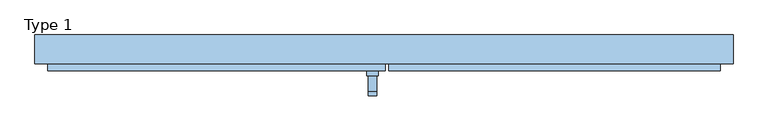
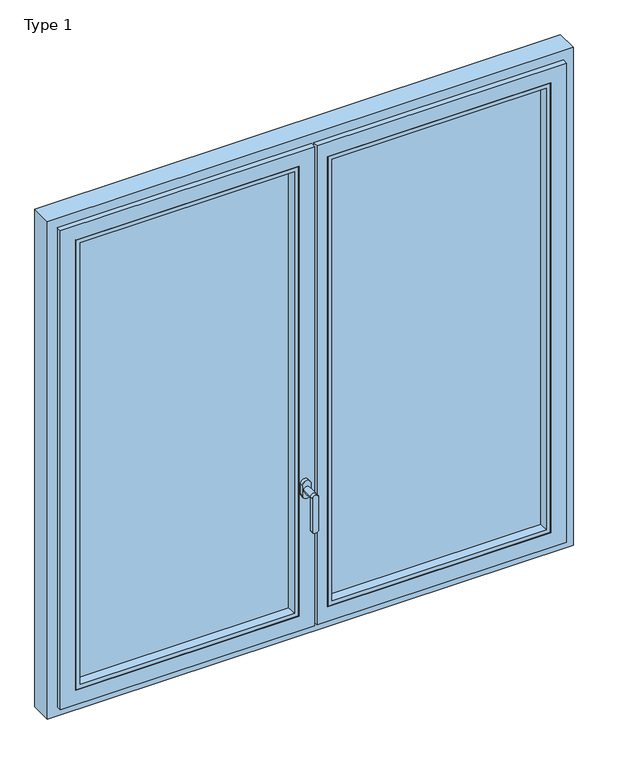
"""IFC4 building model written with IfcOpenShell, lengths in millimetres: window geometry, Schueco_LivIng-82-AS_Window_inw_Family-20 : Type 1."""

from ifc_helpers import new_model, si_unit, point, frame, frame_2d, origin, place, context, project, spatial, polyline, circle_curve, ellipse_curve, trimmed, segment, composite_curve, outline, extrude, faceted_brep, source, transform, mapped, element, save
from ifc_brep_helpers import plane_surface, cylinder_surface, extruded_surface, advanced_brep


def type_1_1d15f25d(model_context):
    return source(origin(), model_context, "Body", "SolidModel", [
        advanced_brep(
        [(-44.9886308, -32.9997898, 1410.0), (-44.9886308, -32.9997898, 1278.6867153), (-21.0113692, -32.9997898, 1278.6867153), (-21.0113692, -32.9997898, 1410.0), (-21.0113692, -20.4997028, 1410.0), (-21.0113692, -20.4997028, 1278.6867153), (-44.9886308, -20.4997028, 1278.6867153), (-44.9886308, -20.4997028, 1410.0), (-44.9886308, 24.0001797, 1410.0), (-21.0113692, 24.0001797, 1410.0)],
        [
            (0, 1),
            (1, 2, ellipse_curve(frame((-33.0, -32.9997898, 1278.6867153), z_axis=(0.0, -1.0, 0.0), x_axis=(-1.0, 0.0, 0.0)), 11.9886308, 7.9050795)),
            (2, 3),
            (3, 0, circle_curve(frame((-33.0, -32.9997898, 1410.0), z_axis=(0.0, -1.0, 0.0), x_axis=(1.0, 0.0, 0.0)), 11.9886308)),
            (4, 5),
            (5, 6, ellipse_curve(frame((-33.0, -20.4997028, 1278.6867153), z_axis=(0.0, 1.0, 0.0), x_axis=(-1.0, 0.0, 0.0)), 11.9886308, 7.9050795)),
            (6, 7),
            (7, 4, circle_curve(frame((-33.0, -20.4997028, 1410.0), z_axis=(0.0, -1.0, 0.0), x_axis=(1.0, 0.0, 0.0)), 11.9886308)),
            (0, 7),
            (6, 1),
            (5, 2),
            (4, 3),
            (4, 7, circle_curve(frame((-33.0, -20.4997028, 1410.0), z_axis=(0.0, -1.0, 0.0), x_axis=(1.0, 0.0, 0.0)), 11.9886308)),
            (8, 9, circle_curve(frame((-33.0, 24.0001797, 1410.0), z_axis=(0.0, 1.0, 0.0), x_axis=(1.0, 0.0, 0.0)), 11.9886308)),
            (9, 8, circle_curve(frame((-33.0, 24.0001797, 1410.0), z_axis=(0.0, 1.0, 0.0), x_axis=(1.0, 0.0, 0.0)), 11.9886308)),
            (9, 4),
            (7, 8),
        ],
        [
            plane_surface(frame((-44.9886308, -32.9997898, 1288.3382074), z_axis=(0.0, -1.0, 0.0), x_axis=(0.0, 0.0, -1.0))),
            plane_surface(frame((-44.9886308, -20.4997028, 1288.3382074), z_axis=(0.0, 1.0, 0.0), x_axis=(0.0, 0.0, 1.0))),
            plane_surface(frame((-44.9886308, -32.9997898, 1410.0), z_axis=(-1.0, 0.0, 0.0), x_axis=(0.0, 1.0, 0.0))),
            extruded_surface(trimmed(ellipse_curve(frame((-33.0, -7.9996158, 1278.6867153), z_axis=(0.0, -1.0, 0.0), x_axis=(-1.0, 0.0, 0.0)), 11.9886308, 7.9050795), [point((-44.9886308, -7.9996158, 1278.6867153))], [point((-21.0113692, -7.9996158, 1278.6867153))], True, "CARTESIAN"), (0.0, -12.500087, 0.0), 12.500087),
            plane_surface(frame((-21.0113692, -32.9997898, 1278.6867153), z_axis=(1.0, 0.0, 0.0), x_axis=(0.0, 1.0, 0.0))),
            cylinder_surface(frame((-33.0, -20.4997028, 1410.0), z_axis=(0.0, -1.0, 0.0), x_axis=(1.0, 0.0, 0.0)), 11.9886308),
            plane_surface(frame((-21.0113692, 24.0001797, 1410.0), z_axis=(0.0, 1.0, 0.0), x_axis=(0.0, 0.0, -1.0))),
            cylinder_surface(frame((-33.0, 24.0001797, 1410.0), z_axis=(0.0, -1.0, 0.0), x_axis=(1.0, 0.0, 0.0)), 11.9886308),
        ],
        [
            (0, [[1, 2, 3, 4]]),
            (1, [[5, 6, 7, 8]]),
            (2, [[-1, 9, -7, 10]]),
            (3, [[-2, -10, -6, 11]]),
            (4, [[-3, -11, -5, 12]]),
            (5, [[-4, -12, 13, -9]]),
            (6, [[14, 15]]),
            (7, [[-15, 16, -8, 17]]),
            (7, [[-14, -17, -13, -16]]),
        ],
    ),
        extrude(outline(composite_curve([segment(polyline([(1428.75, -49.25), (1391.25, -49.25)]), True, "CONTINUOUS"), segment(trimmed(circle_curve(frame_2d((1391.25, -33.0)), 16.25), [point((1391.25, -49.25))], [point((1391.25, -16.75))], False, "CARTESIAN"), True, "CONTINUOUS"), segment(polyline([(1391.25, -16.75), (1428.75, -16.75)]), True, "CONTINUOUS"), segment(trimmed(circle_curve(frame_2d((1428.75, -33.0)), 16.25), [point((1428.75, -16.75))], [point((1428.75, -49.25))], False, "CARTESIAN"), True, "CONTINUOUS")], self_intersect=False)), frame((0.0, 24.0001797, 0.0), z_axis=(0.0, 1.0, 0.0), x_axis=(0.0, 0.0, 1.0)), (0.0, 0.0, 1.0), 14.0),
        faceted_brep([(15.9998644, 58.0, 2733.0001356), (15.9998644, 120.0001797, 2733.0001356), (15.9998644, 120.0001797, 866.9998644), (15.9998644, 58.0, 866.9998644), (933.0001356, 120.0001797, 2733.0001356), (933.0001356, 120.0001797, 866.9998644), (75.1322392, 120.0001797, 2673.8677608), (75.1322392, 120.0001797, 926.1322392), (873.8677608, 120.0001797, 926.1322392), (873.8677608, 120.0001797, 2673.8677608), (933.0001356, 58.0, 866.9998644), (953.0001356, 58.0, 2753.0001356), (953.0001356, 58.0, 846.9998644), (13.0208109, 58.0, 846.9998644), (13.0208109, 58.0, 2753.0001356), (933.0001356, 58.0, 2733.0001356), (53.9998644, 100.9991032, 2695.0001356), (53.9998644, 38.0001797, 2695.0001356), (53.9998644, 38.0001797, 904.9998644), (53.9998644, 100.9991032, 904.9998644), (953.0001356, 38.0001797, 846.9998644), (953.0001356, 38.0001797, 2753.0001356), (13.0208109, 38.0001797, 2753.0001356), (13.0208109, 38.0001797, 846.9998644), (895.0001356, 38.0001797, 2695.0001356), (895.0001356, 38.0001797, 904.9998644), (895.0001356, 100.9991032, 904.9998644), (895.0001356, 100.9991032, 2695.0001356), (868.7764377, 100.9991032, 2668.7764377), (868.7764377, 100.9991032, 931.2235623), (80.2235623, 100.9991032, 931.2235623), (80.2235623, 100.9991032, 2668.7764377)], [[[0, 1, 2, 3]], [[1, 4, 5, 2], [6, 7, 8, 9]], [[3, 2, 5, 10]], [[11, 12, 13, 14], [15, 0, 3, 10]], [[16, 17, 18, 19]], [[20, 21, 22, 23], [17, 24, 25, 18]], [[19, 18, 25, 26]], [[27, 16, 19, 26], [28, 29, 30, 31]], [[4, 15, 10, 5]], [[24, 27, 26, 25]], [[12, 20, 23, 13]], [[11, 21, 20, 12]], [[7, 6, 31, 30]], [[8, 7, 30, 29]], [[9, 8, 29, 28]], [[15, 4, 1, 0]], [[27, 24, 17, 16]], [[21, 11, 14, 22]], [[6, 9, 28, 31]], [[22, 14, 13, 23]]]),
        faceted_brep([(53.9998644, 39.499499, 2695.0001356), (53.9998644, 64.9991032, 2695.0001356), (53.9998644, 64.9991032, 904.9998644), (53.9998644, 39.499499, 904.9998644), (895.0001356, 64.9991032, 2695.0001356), (895.0001356, 64.9991032, 904.9998644), (78.0642509, 64.9991032, 2670.9357491), (78.0642509, 64.9991032, 929.0642509), (870.9357491, 64.9991032, 929.0642509), (870.9357491, 64.9991032, 2670.9357491), (895.0001356, 39.499499, 904.9998644), (55.4991837, 38.0001797, 2693.5008163), (55.4991837, 38.0001797, 906.4991837), (895.0001356, 39.499499, 2695.0001356), (893.5008163, 38.0001797, 906.4991837), (70.8299112, 38.0001797, 2678.1700888), (70.8299112, 38.0001797, 921.8299112), (878.1700888, 38.0001797, 921.8299112), (878.1700888, 38.0001797, 2678.1700888), (893.5008163, 38.0001797, 2693.5008163)], [[[0, 1, 2, 3]], [[4, 5, 2, 1], [6, 7, 8, 9]], [[3, 2, 5, 10]], [[11, 0, 3, 12]], [[10, 5, 4, 13]], [[12, 3, 10, 14]], [[6, 15, 16, 7]], [[7, 16, 17, 8]], [[8, 17, 18, 9]], [[11, 12, 14, 19], [18, 17, 16, 15]], [[14, 10, 13, 19]], [[13, 4, 1, 0]], [[9, 18, 15, 6]], [[19, 13, 0, 11]]]),
        extrude(outline(polyline([(53.9998644, 100.9991032), (895.0001356, 100.9991032), (895.0001356, 64.9991032), (53.9998644, 64.9991032), (53.9998644, 100.9991032)])), frame((0.0, 0.0, 904.9998644), z_axis=(0.0, 0.0, 1.0), x_axis=(1.0, 0.0, 0.0)), (0.0, 0.0, 1.0), 1790.0002713),
        faceted_brep([(-53.9998644, 64.9991032, 2695.0001356), (-53.9998644, 39.499499, 2695.0001356), (-53.9998644, 39.499499, 904.9998644), (-53.9998644, 64.9991032, 904.9998644), (-55.4991837, 38.0001797, 2693.5008163), (-55.4991837, 38.0001797, 906.4991837), (-895.0001356, 39.499499, 904.9998644), (-895.0001356, 64.9991032, 904.9998644), (-895.0001356, 64.9991032, 2695.0001356), (-870.9357491, 64.9991032, 2670.9357491), (-870.9357491, 64.9991032, 929.0642509), (-78.0642509, 64.9991032, 929.0642509), (-78.0642509, 64.9991032, 2670.9357491), (-893.5008163, 38.0001797, 906.4991837), (-895.0001356, 39.499499, 2695.0001356), (-878.1700888, 38.0001797, 921.8299112), (-878.1700888, 38.0001797, 2678.1700888), (-70.8299112, 38.0001797, 921.8299112), (-70.8299112, 38.0001797, 2678.1700888), (-893.5008163, 38.0001797, 2693.5008163)], [[[0, 1, 2, 3]], [[1, 4, 5, 2]], [[3, 2, 6, 7]], [[0, 3, 7, 8], [9, 10, 11, 12]], [[2, 5, 13, 6]], [[7, 6, 14, 8]], [[15, 10, 9, 16]], [[17, 11, 10, 15]], [[18, 12, 11, 17]], [[19, 13, 5, 4], [18, 17, 15, 16]], [[6, 13, 19, 14]], [[8, 14, 1, 0]], [[16, 9, 12, 18]], [[14, 19, 4, 1]]]),
        faceted_brep([(-15.9998644, 120.0001797, 2733.0001356), (-15.9998644, 58.0, 2733.0001356), (-15.9998644, 58.0, 866.9998644), (-15.9998644, 120.0001797, 866.9998644), (4.0001356, 58.0, 2753.0001356), (4.0001356, 58.0, 846.9998644), (-953.0001356, 58.0, 846.9998644), (-953.0001356, 58.0, 2753.0001356), (-933.0001356, 58.0, 2733.0001356), (-933.0001356, 58.0, 866.9998644), (-933.0001356, 120.0001797, 866.9998644), (-933.0001356, 120.0001797, 2733.0001356), (-873.8677608, 120.0001797, 2673.8677608), (-873.8677608, 120.0001797, 926.1322392), (-75.1322392, 120.0001797, 926.1322392), (-75.1322392, 120.0001797, 2673.8677608), (-53.9998644, 38.0001797, 2695.0001356), (-53.9998644, 100.9991032, 2695.0001356), (-53.9998644, 100.9991032, 904.9998644), (-53.9998644, 38.0001797, 904.9998644), (-895.0001356, 100.9991032, 2695.0001356), (-895.0001356, 100.9991032, 904.9998644), (-80.2235623, 100.9991032, 2668.7764377), (-80.2235623, 100.9991032, 931.2235623), (-868.7764377, 100.9991032, 931.2235623), (-868.7764377, 100.9991032, 2668.7764377), (-895.0001356, 38.0001797, 904.9998644), (-953.0001356, 38.0001797, 2753.0001356), (-953.0001356, 38.0001797, 846.9998644), (4.0001356, 38.0001797, 846.9998644), (4.0001356, 38.0001797, 2753.0001356), (-895.0001356, 38.0001797, 2695.0001356)], [[[0, 1, 2, 3]], [[4, 5, 6, 7], [8, 9, 2, 1]], [[3, 2, 9, 10]], [[0, 3, 10, 11], [12, 13, 14, 15]], [[16, 17, 18, 19]], [[20, 21, 18, 17], [22, 23, 24, 25]], [[19, 18, 21, 26]], [[27, 28, 29, 30], [16, 19, 26, 31]], [[4, 30, 29, 5]], [[5, 29, 28, 6]], [[10, 9, 8, 11]], [[26, 21, 20, 31]], [[6, 28, 27, 7]], [[24, 13, 12, 25]], [[23, 14, 13, 24]], [[22, 15, 14, 23]], [[11, 8, 1, 0]], [[31, 20, 17, 16]], [[7, 27, 30, 4]], [[25, 12, 15, 22]]]),
        extrude(outline(polyline([(-895.0001356, 100.9991032), (-53.9998644, 100.9991032), (-53.9998644, 64.9991032), (-895.0001356, 64.9991032), (-895.0001356, 100.9991032)])), frame((0.0, 0.0, 904.9998644), z_axis=(0.0, 0.0, 1.0), x_axis=(1.0, 0.0, 0.0)), (0.0, 0.0, 1.0), 1790.0002713),
        extrude(outline(polyline([(-4.0, 120.0001797), (-30.4881148, 120.0001797), (-25.1291482, 140.0001153), (25.1291482, 140.0001153), (30.4881148, 120.0001797), (15.9998644, 120.0001797), (15.9998644, 57.9880736), (-4.0, 57.9880736), (-4.0, 120.0001797)])), frame((0.0, 0.0, 881.4913105), z_axis=(0.0, 0.0, 1.0), x_axis=(1.0, 0.0, 0.0)), (0.0, 0.0, 1.0), 1837.017379),
        faceted_brep([(945.0, 120.0001797, 855.0), (945.0, 120.0001797, 2745.0), (-945.0, 120.0001797, 2745.0), (-945.0, 120.0001797, 855.0), (-918.5086895, 120.0001797, 881.4913105), (-918.5086895, 120.0001797, 2718.5086895), (918.5086895, 120.0001797, 2718.5086895), (918.5086895, 120.0001797, 881.4913105), (990.0, 140.0, 810.0), (-990.0, 140.0, 810.0), (-990.0, 140.0, 2790.0), (990.0, 140.0, 2790.0), (923.8676252, 140.0, 2723.8676252), (-923.8676252, 140.0, 2723.8676252), (-923.8676252, 140.0, 876.1323748), (923.8676252, 140.0, 876.1323748), (-990.0, 58.0, 810.0), (990.0, 58.0, 810.0), (990.0, 58.0, 2790.0), (-990.0, 58.0, 2790.0), (945.0, 58.0, 855.0), (-945.0, 58.0, 855.0), (-945.0, 58.0, 2745.0), (945.0, 58.0, 2745.0)], [[[0, 1, 2, 3], [4, 5, 6, 7]], [[8, 9, 10, 11], [12, 13, 14, 15]], [[16, 9, 8, 17]], [[17, 8, 11, 18]], [[18, 19, 16, 17], [20, 21, 22, 23]], [[19, 10, 9, 16]], [[2, 22, 21, 3]], [[3, 21, 20, 0]], [[0, 20, 23, 1]], [[18, 11, 10, 19]], [[1, 23, 22, 2]], [[15, 7, 6, 12]], [[13, 5, 4, 14]], [[14, 4, 7, 15]], [[12, 6, 5, 13]]]),
    ])


if __name__ == "__main__":
    model = new_model("IFC4")
    model_context = context("Model", 3, world=origin())
    ifc_project = project(units=[si_unit("LENGTHUNIT", "METRE", prefix="MILLI")], contexts=[model_context])
    site = spatial("IfcSite", under=ifc_project)
    building = spatial("IfcBuilding", under=site)
    placement = place(None, origin())
    type_1_shape = type_1_1d15f25d(model_context)
    element("IfcWindow", 1, ObjectType="Schueco_LivIng-82-AS_Window_inw_Family-20 : Type 1", at=placement, inside=building, context=model_context, shape_type="MappedRepresentation", body=[
        mapped(type_1_shape, transform((0.0, 0.0, 0.0), x_axis=(1.0, 0.0, 0.0), y_axis=(0.0, 1.0, 0.0), z_axis=(0.0, 0.0, 1.0))),
    ])
    save(model, "model.ifc")
